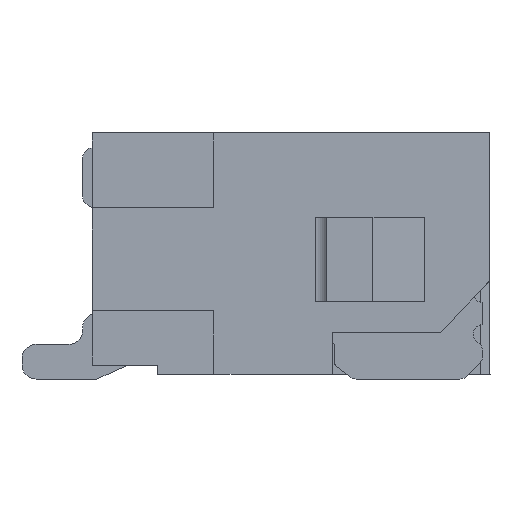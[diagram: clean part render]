
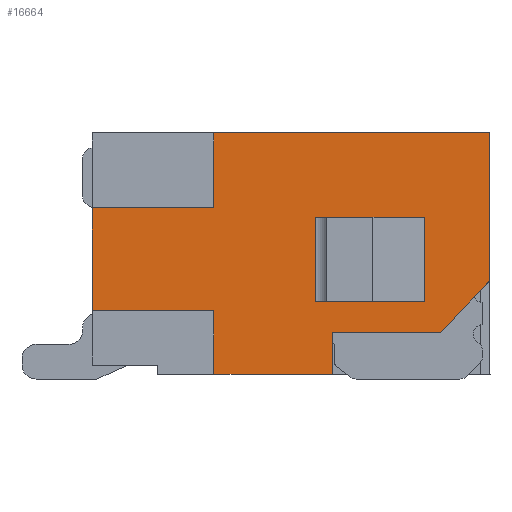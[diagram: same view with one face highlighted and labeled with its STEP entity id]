
A CAD part, left-side view. The second image highlights one B-rep face of the part: STEP entity #16664.
In plain terms, the highlighted planar face has unit normal (-1, 0, 0).
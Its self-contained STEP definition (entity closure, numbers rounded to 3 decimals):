
#5983=DIRECTION('',(0.,0.694,-0.72));
#5984=VECTOR('',#5983,0.764);
#5985=CARTESIAN_POINT('',(0.6,0.,-1.58));
#5986=LINE('',#5985,#5984);
#5987=DIRECTION('',(0.,1.,0.));
#5988=VECTOR('',#5987,1.27);
#5989=CARTESIAN_POINT('',(0.6,1.68,-2.58));
#5990=LINE('',#5989,#5988);
#5991=DIRECTION('',(0.,0.,1.));
#5992=VECTOR('',#5991,1.1);
#5993=CARTESIAN_POINT('',(0.6,4.25,-1.9));
#5994=LINE('',#5993,#5992);
#5995=DIRECTION('',(0.,-1.,0.));
#5996=VECTOR('',#5995,1.3);
#5997=CARTESIAN_POINT('',(0.6,4.25,-0.8));
#5998=LINE('',#5997,#5996);
#5999=DIRECTION('',(0.,-1.,0.));
#6000=VECTOR('',#5999,2.95);
#6001=CARTESIAN_POINT('',(0.6,2.95,0.));
#6002=LINE('',#6001,#6000);
#6003=DIRECTION('',(0.,0.,-1.));
#6004=VECTOR('',#6003,1.58);
#6005=CARTESIAN_POINT('',(0.6,0.,0.));
#6006=LINE('',#6005,#6004);
#6083=DIRECTION('',(0.,-1.,0.));
#6084=VECTOR('',#6083,1.15);
#6085=CARTESIAN_POINT('',(0.6,1.68,-2.13));
#6086=LINE('',#6085,#6084);
#6431=DIRECTION('',(0.,0.,1.));
#6432=VECTOR('',#6431,0.45);
#6433=CARTESIAN_POINT('',(0.6,1.68,-2.58));
#6434=LINE('',#6433,#6432);
#6475=DIRECTION('',(0.,0.,-1.));
#6476=VECTOR('',#6475,0.68);
#6477=CARTESIAN_POINT('',(0.6,2.95,-1.9));
#6478=LINE('',#6477,#6476);
#6487=DIRECTION('',(0.,-1.,0.));
#6488=VECTOR('',#6487,1.3);
#6489=CARTESIAN_POINT('',(0.6,4.25,-1.9));
#6490=LINE('',#6489,#6488);
#6515=DIRECTION('',(0.,0.,-1.));
#6516=VECTOR('',#6515,0.8);
#6517=CARTESIAN_POINT('',(0.6,2.95,0.));
#6518=LINE('',#6517,#6516);
#6519=DIRECTION('',(0.,0.,1.));
#6520=VECTOR('',#6519,0.9);
#6521=CARTESIAN_POINT('',(0.6,1.866,-1.8));
#6522=LINE('',#6521,#6520);
#6532=DIRECTION('',(0.,-1.,0.));
#6533=VECTOR('',#6532,1.166);
#6534=CARTESIAN_POINT('',(0.6,1.866,-0.9));
#6535=LINE('',#6534,#6533);
#6552=DIRECTION('',(0.,0.,-1.));
#6553=VECTOR('',#6552,0.9);
#6554=CARTESIAN_POINT('',(0.6,0.7,-0.9));
#6555=LINE('',#6554,#6553);
#6560=DIRECTION('',(0.,1.,0.));
#6561=VECTOR('',#6560,1.166);
#6562=CARTESIAN_POINT('',(0.6,0.7,-1.8));
#6563=LINE('',#6562,#6561);
#6697=CARTESIAN_POINT('',(0.6,2.95,-2.58));
#6698=VERTEX_POINT('',#6697);
#6699=CARTESIAN_POINT('',(0.6,1.68,-2.58));
#6700=VERTEX_POINT('',#6699);
#6706=CARTESIAN_POINT('',(0.6,0.,0.));
#6708=VERTEX_POINT('',#6706);
#6715=CARTESIAN_POINT('',(0.6,0.,-1.58));
#6716=VERTEX_POINT('',#6715);
#6733=CARTESIAN_POINT('',(0.6,2.95,0.));
#6734=VERTEX_POINT('',#6733);
#8561=CARTESIAN_POINT('',(0.6,4.25,-0.8));
#8562=VERTEX_POINT('',#8561);
#8565=CARTESIAN_POINT('',(0.6,2.95,-0.8));
#8566=VERTEX_POINT('',#8565);
#8567=CARTESIAN_POINT('',(0.6,0.53,-2.13));
#8568=VERTEX_POINT('',#8567);
#8569=CARTESIAN_POINT('',(0.6,1.68,-2.13));
#8570=VERTEX_POINT('',#8569);
#8571=CARTESIAN_POINT('',(0.6,2.95,-1.9));
#8572=VERTEX_POINT('',#8571);
#8573=CARTESIAN_POINT('',(0.6,4.25,-1.9));
#8574=VERTEX_POINT('',#8573);
#8575=CARTESIAN_POINT('',(0.6,0.7,-1.8));
#8576=CARTESIAN_POINT('',(0.6,1.866,-1.8));
#8577=VERTEX_POINT('',#8575);
#8578=VERTEX_POINT('',#8576);
#8579=CARTESIAN_POINT('',(0.6,0.7,-0.9));
#8580=VERTEX_POINT('',#8579);
#8581=CARTESIAN_POINT('',(0.6,1.866,-0.9));
#8582=VERTEX_POINT('',#8581);
#16630=CARTESIAN_POINT('',(0.6,2.125,-1.29));
#16631=DIRECTION('',(1.,0.,0.));
#16632=DIRECTION('',(0.,1.,0.));
#16633=AXIS2_PLACEMENT_3D('',#16630,#16631,#16632);
#16634=PLANE('',#16633);
#16636=ORIENTED_EDGE('',*,*,#16635,.T.);
#16638=ORIENTED_EDGE('',*,*,#16637,.F.);
#16640=ORIENTED_EDGE('',*,*,#16639,.F.);
#16641=ORIENTED_EDGE('',*,*,#8791,.T.);
#16643=ORIENTED_EDGE('',*,*,#16642,.F.);
#16645=ORIENTED_EDGE('',*,*,#16644,.F.);
#16646=ORIENTED_EDGE('',*,*,#16583,.T.);
#16647=ORIENTED_EDGE('',*,*,#16621,.T.);
#16649=ORIENTED_EDGE('',*,*,#16648,.F.);
#16650=ORIENTED_EDGE('',*,*,#8863,.T.);
#16651=ORIENTED_EDGE('',*,*,#8828,.T.);
#16652=EDGE_LOOP('',(#16636,#16638,#16640,#16641,#16643,#16645,#16646,#16647,
#16649,#16650,#16651));
#16653=FACE_OUTER_BOUND('',#16652,.F.);
#16655=ORIENTED_EDGE('',*,*,#16654,.F.);
#16657=ORIENTED_EDGE('',*,*,#16656,.F.);
#16659=ORIENTED_EDGE('',*,*,#16658,.F.);
#16661=ORIENTED_EDGE('',*,*,#16660,.F.);
#16662=EDGE_LOOP('',(#16655,#16657,#16659,#16661));
#16663=FACE_BOUND('',#16662,.F.);
#8791=EDGE_CURVE('',#6700,#6698,#5990,.T.);
#8828=EDGE_CURVE('',#6708,#6716,#6006,.T.);
#8863=EDGE_CURVE('',#6734,#6708,#6002,.T.);
#16583=EDGE_CURVE('',#8574,#8562,#5994,.T.);
#16621=EDGE_CURVE('',#8562,#8566,#5998,.T.);
#16635=EDGE_CURVE('',#6716,#8568,#5986,.T.);
#16637=EDGE_CURVE('',#8570,#8568,#6086,.T.);
#16639=EDGE_CURVE('',#6700,#8570,#6434,.T.);
#16642=EDGE_CURVE('',#8572,#6698,#6478,.T.);
#16644=EDGE_CURVE('',#8574,#8572,#6490,.T.);
#16648=EDGE_CURVE('',#6734,#8566,#6518,.T.);
#16654=EDGE_CURVE('',#8578,#8582,#6522,.T.);
#16656=EDGE_CURVE('',#8577,#8578,#6563,.T.);
#16658=EDGE_CURVE('',#8580,#8577,#6555,.T.);
#16660=EDGE_CURVE('',#8582,#8580,#6535,.T.);
#16664=ADVANCED_FACE('',(#16653,#16663),#16634,.F.);
